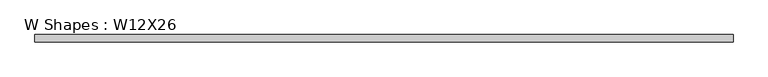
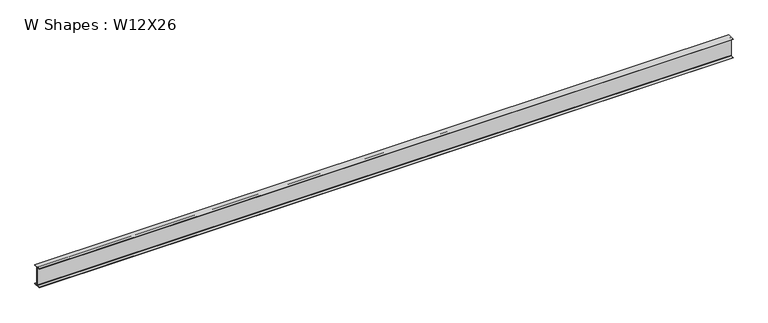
"""IFC4 building model written with IfcOpenShell, lengths in millimetres: beam geometry, W Shapes : W12X26."""

from ifc_helpers import new_model, si_unit, point, frame, frame_2d, origin, place, context, project, spatial, polyline, circle_curve, trimmed, segment, composite_curve, outline, extrude, source, transform, mapped, element, save


def w_shapes_w12x26_820af83e(model_context):
    return source(origin(), model_context, "Body", "SweptSolid", [
        extrude(outline(composite_curve([segment(polyline([(82.423, -218.948), (82.423, -228.6), (-82.423, -228.6), (-82.423, -218.948), (-10.541, -218.948)]), True, "CONTINUOUS"), segment(trimmed(circle_curve(frame_2d((-10.541, -211.328)), 7.62), [point((-10.541, -218.948))], [point((-2.921, -211.328))], True, "CARTESIAN"), True, "CONTINUOUS"), segment(polyline([(-2.921, -211.328), (-2.921, 211.328)]), True, "CONTINUOUS"), segment(trimmed(circle_curve(frame_2d((-10.541, 211.328)), 7.62), [point((-2.921, 211.328))], [point((-10.541, 218.948))], True, "CARTESIAN"), True, "CONTINUOUS"), segment(polyline([(-10.541, 218.948), (-82.423, 218.948), (-82.423, 228.6), (82.423, 228.6), (82.423, 218.948), (10.541, 218.948)]), True, "CONTINUOUS"), segment(trimmed(circle_curve(frame_2d((10.541, 211.328)), 7.62), [point((10.541, 218.948))], [point((2.921, 211.328))], True, "CARTESIAN"), True, "CONTINUOUS"), segment(polyline([(2.921, 211.328), (2.921, -211.328)]), True, "CONTINUOUS"), segment(trimmed(circle_curve(frame_2d((10.541, -211.328)), 7.62), [point((2.921, -211.328))], [point((10.541, -218.948))], True, "CARTESIAN"), True, "CONTINUOUS"), segment(polyline([(10.541, -218.948), (82.423, -218.948)]), True, "CONTINUOUS")], self_intersect=False)), frame((-8060.0, 0.0, 0.0), z_axis=(1.0, 0.0, 0.0), x_axis=(0.0, 1.0, 0.0)), (0.0, 0.0, 1.0), 15900.0),
    ])


if __name__ == "__main__":
    model = new_model("IFC4")
    model_context = context("Model", 3, world=origin())
    ifc_project = project(units=[si_unit("LENGTHUNIT", "METRE", prefix="MILLI")], contexts=[model_context])
    site = spatial("IfcSite", under=ifc_project)
    building = spatial("IfcBuilding", under=site)
    placement = place(None, origin())
    w_shapes_w12x26_shape = w_shapes_w12x26_820af83e(model_context)
    element("IfcBeam", 1, ObjectType="W Shapes : W12X26", at=placement, inside=building, context=model_context, shape_type="MappedRepresentation", body=[
        mapped(w_shapes_w12x26_shape, transform((0.0, 0.0, 0.0), x_axis=(1.0, 0.0, 0.0), y_axis=(0.0, 1.0, 0.0), z_axis=(0.0, 0.0, 1.0))),
    ])
    save(model, "model.ifc")
